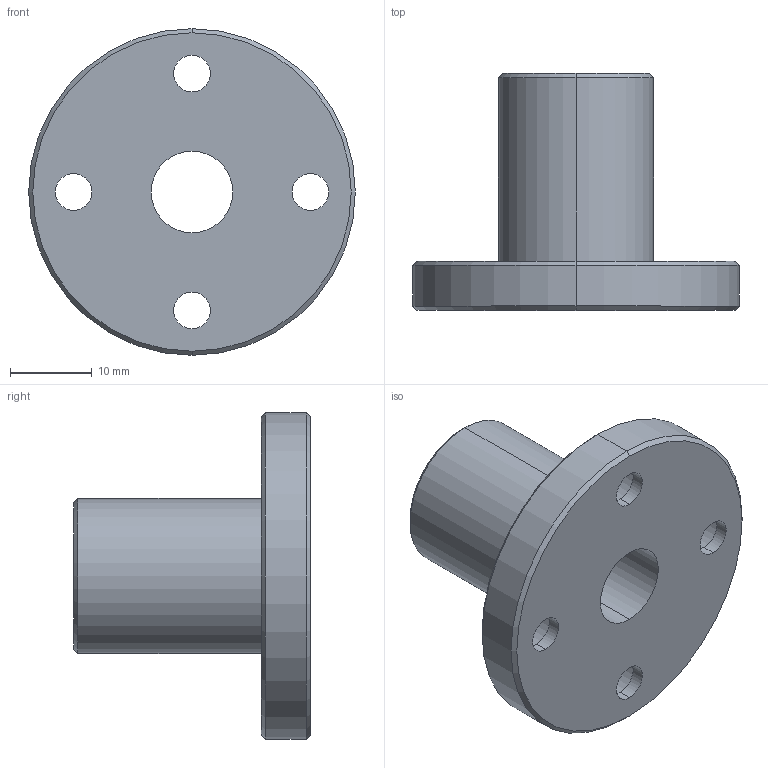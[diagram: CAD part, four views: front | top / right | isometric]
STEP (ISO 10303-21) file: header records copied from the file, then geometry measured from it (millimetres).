
FILE_DESCRIPTION (( 'STEP AP214' ), '1' );
FILE_NAME ('2.7032 Lineaarilaakeri LMF10UU.STEP', '2024-06-18T07:31:55', ( '' ), ( '' ), 'SwSTEP 2.0', 'SolidWorks 2024', '' );
FILE_SCHEMA (( 'AUTOMOTIVE_DESIGN' ));
Length unit declared in the file: millimetre
Products named in the file (1): 2.7032 Lineaarilaakeri LMF10UU
Bounding box: 40 x 29 x 40 mm (x, y, z)
Volume: 10758.4 mm3; surface area: 5707.6 mm2
Topology: 1 solids, 1 shells, 35 faces, 78 edges, 50 vertices
Faces by surface type: cylinder 22, plane 7, cone 6
Entity records: 1037 total; most frequent: DIRECTION 200, CARTESIAN_POINT 164, ORIENTED_EDGE 156, AXIS2_PLACEMENT_3D 86, EDGE_CURVE 78, VERTEX_POINT 50, EDGE_LOOP 50, CIRCLE 50
